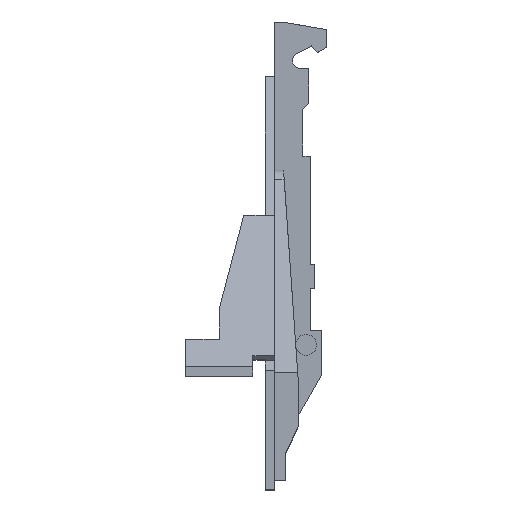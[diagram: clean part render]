
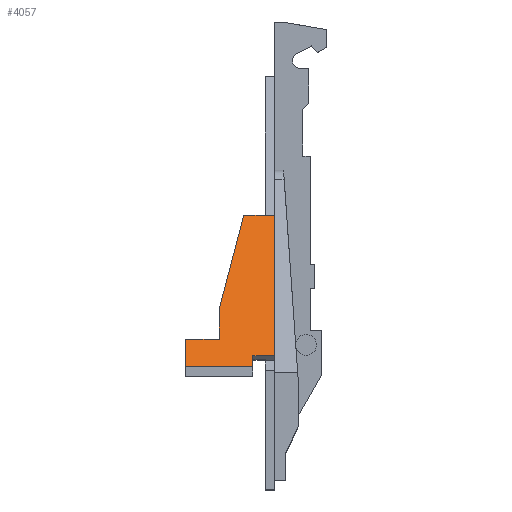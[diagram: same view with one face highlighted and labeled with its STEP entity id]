
A CAD part, top view. The second image highlights one B-rep face of the part: STEP entity #4057.
In plain terms, the highlighted planar face has unit normal (0, 0.432, 0.902).
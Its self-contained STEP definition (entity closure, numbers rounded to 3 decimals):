
#505 = LINE ( 'NONE', #2074, #506 ) ;
#506 = VECTOR ( 'NONE', #2075, 1000. ) ;
#620 = LINE ( 'NONE', #2959, #621 ) ;
#621 = VECTOR ( 'NONE', #2957, 1000. ) ;
#724 = LINE ( 'NONE', #3129, #725 ) ;
#725 = VECTOR ( 'NONE', #3130, 1000. ) ;
#849 = LINE ( 'NONE', #4312, #850 ) ;
#850 = VECTOR ( 'NONE', #4313, 1000. ) ;
#922 = LINE ( 'NONE', #4345, #923 ) ;
#923 = VECTOR ( 'NONE', #4344, 1000. ) ;
#963 = LINE ( 'NONE', #1908, #964 ) ;
#964 = VECTOR ( 'NONE', #1910, 1000. ) ;
#970 = LINE ( 'NONE', #1919, #971 ) ;
#971 = VECTOR ( 'NONE', #1917, 1000. ) ;
#1036 = LINE ( 'NONE', #1979, #1037 ) ;
#1037 = VECTOR ( 'NONE', #1978, 1000. ) ;
#1170 = LINE ( 'NONE', #2087, #1171 ) ;
#1171 = VECTOR ( 'NONE', #2086, 1000. ) ;
#1245 = FACE_OUTER_BOUND ( 'NONE', #1360, .T. ) ;
#1360 = EDGE_LOOP ( 'NONE', ( #1663, #1699, #1708, #1706, #1670, #1430, #1693, #2329, #1691 ) ) ;
#1430 = ORIENTED_EDGE ( 'NONE', *, *, #1650, .F. ) ;
#1530 = EDGE_CURVE ( 'NONE', #4723, #4659, #505, .T. ) ;
#1592 = EDGE_CURVE ( 'NONE', #4718, #4651, #620, .T. ) ;
#1650 = EDGE_CURVE ( 'NONE', #4718, #4700, #724, .T. ) ;
#1663 = ORIENTED_EDGE ( 'NONE', *, *, #3654, .T. ) ;
#1670 = ORIENTED_EDGE ( 'NONE', *, *, #1763, .F. ) ;
#1691 = ORIENTED_EDGE ( 'NONE', *, *, #1530, .F. ) ;
#1693 = ORIENTED_EDGE ( 'NONE', *, *, #1592, .T. ) ;
#1699 = ORIENTED_EDGE ( 'NONE', *, *, #3845, .T. ) ;
#1706 = ORIENTED_EDGE ( 'NONE', *, *, #3708, .T. ) ;
#1708 = ORIENTED_EDGE ( 'NONE', *, *, #1801, .T. ) ;
#1763 = EDGE_CURVE ( 'NONE', #4700, #4693, #849, .T. ) ;
#1801 = EDGE_CURVE ( 'NONE', #4717, #4716, #922, .T. ) ;
#1908 = CARTESIAN_POINT ( 'NONE',  ( 1.5, 35.853, 20.068 ) ) ;
#1910 = DIRECTION ( 'NONE',  ( 0., -0.902, 0.432 ) ) ;
#1917 = DIRECTION ( 'NONE',  ( -0.229, -0.878, 0.421 ) ) ;
#1919 = CARTESIAN_POINT ( 'NONE',  ( -7.5, 20.522, 27.414 ) ) ;
#1978 = DIRECTION ( 'NONE',  ( 0., -0.902, 0.432 ) ) ;
#1979 = CARTESIAN_POINT ( 'NONE',  ( -13., 35.853, 20.068 ) ) ;
#2074 = CARTESIAN_POINT ( 'NONE',  ( 1.5, 35.853, 20.068 ) ) ;
#2075 = DIRECTION ( 'NONE',  ( 1., 0., 0. ) ) ;
#2086 = DIRECTION ( 'NONE',  ( 0., -0.902, 0.432 ) ) ;
#2087 = CARTESIAN_POINT ( 'NONE',  ( -7.5, 15.562, 29.79 ) ) ;
#2329 = ORIENTED_EDGE ( 'NONE', *, *, #3650, .F. ) ;
#2504 = PLANE ( 'NONE',  #3825 ) ;
#2506 = CARTESIAN_POINT ( 'NONE',  ( 1.5, 35.853, 20.068 ) ) ;
#2531 = DIRECTION ( 'NONE',  ( 0., 0.902, -0.432 ) ) ;
#2532 = DIRECTION ( 'NONE',  ( 0., -0.432, -0.902 ) ) ;
#2957 = DIRECTION ( 'NONE',  ( 1., 0., 0. ) ) ;
#2959 = CARTESIAN_POINT ( 'NONE',  ( 1.5, 12.857, 31.086 ) ) ;
#3129 = CARTESIAN_POINT ( 'NONE',  ( -2., 11., 31.976 ) ) ;
#3130 = DIRECTION ( 'NONE',  ( 0., -0.902, 0.432 ) ) ;
#3350 = CARTESIAN_POINT ( 'NONE',  ( -3.5, 35.853, 20.068 ) ) ;
#3353 = CARTESIAN_POINT ( 'NONE',  ( -2., 12.857, 31.086 ) ) ;
#3355 = CARTESIAN_POINT ( 'NONE',  ( -7.5, 20.522, 27.414 ) ) ;
#3356 = CARTESIAN_POINT ( 'NONE',  ( -13., 15.562, 29.79 ) ) ;
#3357 = CARTESIAN_POINT ( 'NONE',  ( -7.5, 15.562, 29.79 ) ) ;
#3418 = CARTESIAN_POINT ( 'NONE',  ( 1.5, 35.853, 20.068 ) ) ;
#3430 = CARTESIAN_POINT ( 'NONE',  ( 1.5, 12.857, 31.086 ) ) ;
#3522 = CARTESIAN_POINT ( 'NONE',  ( -13., 11., 31.976 ) ) ;
#3529 = CARTESIAN_POINT ( 'NONE',  ( -2., 11., 31.976 ) ) ;
#3650 = EDGE_CURVE ( 'NONE', #4659, #4651, #963, .T. ) ;
#3654 = EDGE_CURVE ( 'NONE', #4723, #4720, #970, .T. ) ;
#3708 = EDGE_CURVE ( 'NONE', #4716, #4693, #1036, .T. ) ;
#3825 = AXIS2_PLACEMENT_3D ( 'NONE', #2506, #2532, #2531 ) ;
#3845 = EDGE_CURVE ( 'NONE', #4720, #4717, #1170, .T. ) ;
#4057 = ADVANCED_FACE ( 'NONE', ( #1245 ), #2504, .F. ) ;
#4312 = CARTESIAN_POINT ( 'NONE',  ( -2., 11., 31.976 ) ) ;
#4313 = DIRECTION ( 'NONE',  ( -1., 0., 0. ) ) ;
#4344 = DIRECTION ( 'NONE',  ( -1., 0., 0. ) ) ;
#4345 = CARTESIAN_POINT ( 'NONE',  ( -13., 15.562, 29.79 ) ) ;
#4651 = VERTEX_POINT ( 'NONE', #3430 ) ;
#4659 = VERTEX_POINT ( 'NONE', #3418 ) ;
#4693 = VERTEX_POINT ( 'NONE', #3522 ) ;
#4700 = VERTEX_POINT ( 'NONE', #3529 ) ;
#4716 = VERTEX_POINT ( 'NONE', #3356 ) ;
#4717 = VERTEX_POINT ( 'NONE', #3357 ) ;
#4718 = VERTEX_POINT ( 'NONE', #3353 ) ;
#4720 = VERTEX_POINT ( 'NONE', #3355 ) ;
#4723 = VERTEX_POINT ( 'NONE', #3350 ) ;
